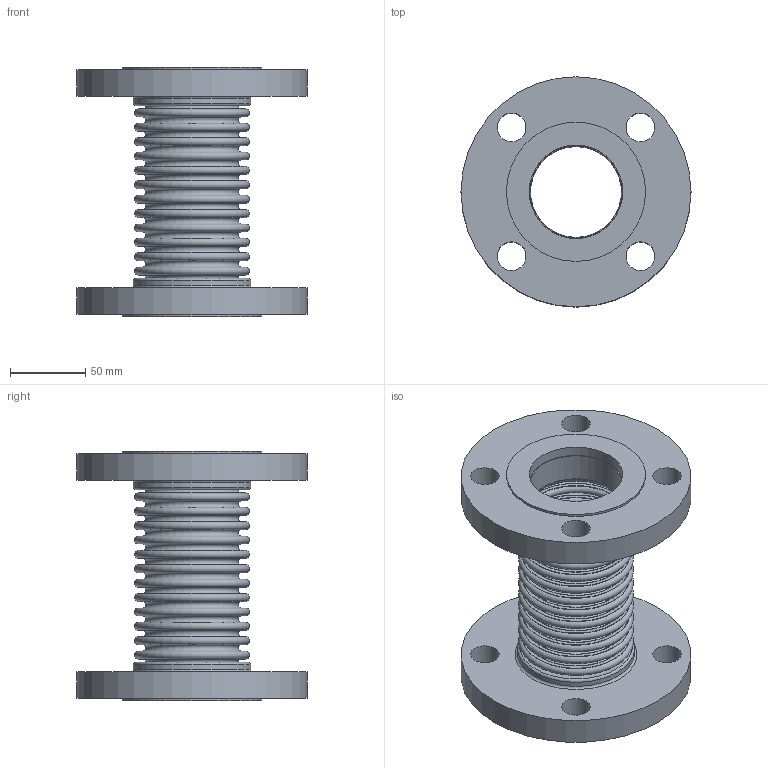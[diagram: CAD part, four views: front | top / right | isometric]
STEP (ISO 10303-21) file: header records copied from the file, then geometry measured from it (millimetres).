
FILE_DESCRIPTION(/* description */ ('EXPANSION JOINT,SINGLE, FLANGED ENDS,2 INCH NOMINAL','CAx-IF Rec.Pracs.---Representation and Presentation of Product Manufacturing Information (PMI)---4.0---2014-10-13'),/* implementation_level */ '2;1');
FILE_NAME(/* name */ 'US-02-12-85L-FLANGED ENDS.stp',/* time_stamp */ '2026-07-31T16:36:01-05:00',/* author */ ('Guadalupe'),/* organization */ (''),/* preprocessor_version */ 'ST-DEVELOPER v20.1',/* originating_system */ 'Autodesk Inventor 2026',/* authorisation */ '');
FILE_SCHEMA (('AP242_MANAGED_MODEL_BASED_3D_ENGINEERING_MIM_LF { 1 0 10303 442 2 1 4 }'));
Length unit declared in the file: inch
Products named in the file (3): 02-85L; 02-85L-02; 02-85L-01
Assembly tree (3 placements, depth 2):
  02-85L
    02-85L-02  x2
    02-85L-01
Bounding box: 152.4 x 152.4 x 165.1 mm (x, y, z)
Volume: 554124.5 mm3; surface area: 214805.2 mm2
Topology: 5 solids, 5 shells, 136 faces, 222 edges, 148 vertices
Faces by surface type: plane 62, torus 54, cylinder 20
Full cylindrical faces by diameter (mm): 19.05 x8, 60.325 x2, 61.239 x2, 61.976 x2, 77.724 x2, 92.202 x2, 152.4 x2
Entity records: 3138 total; most frequent: DIRECTION 654, CARTESIAN_POINT 465, ORIENTED_EDGE 384, AXIS2_PLACEMENT_3D 321, EDGE_CURVE 192, EDGE_LOOP 188, CIRCLE 180, VERTEX_POINT 128
